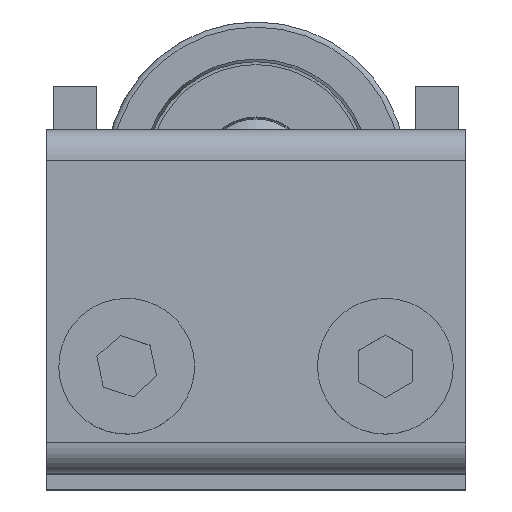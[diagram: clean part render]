
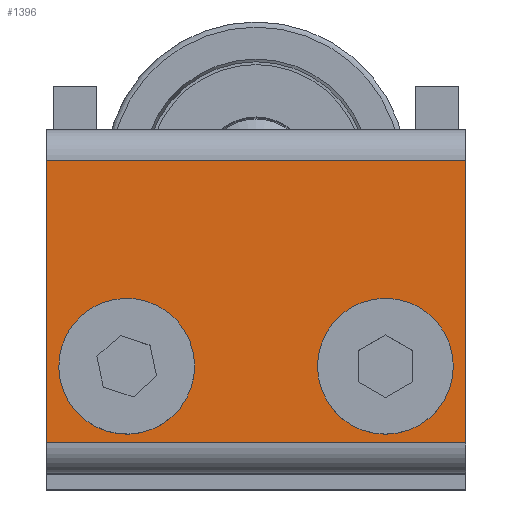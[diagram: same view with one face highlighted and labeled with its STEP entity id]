
A CAD part, top view. The second image highlights one B-rep face of the part: STEP entity #1396.
In plain terms, the highlighted planar face has unit normal (0, 0, 1) as drawn and (0, 0, -1) by its records, which use the part's own axes.
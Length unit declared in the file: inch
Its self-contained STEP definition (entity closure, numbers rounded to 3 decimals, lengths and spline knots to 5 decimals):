
#1095=DIRECTION('',(0.,-1.,0.));
#1096=VECTOR('',#1095,0.82);
#1097=CARTESIAN_POINT('',(-0.6075,0.41,-0.18));
#1098=LINE('',#1097,#1096);
#1121=DIRECTION('',(0.,-1.,0.));
#1122=VECTOR('',#1121,0.82);
#1123=CARTESIAN_POINT('',(0.6075,0.41,-0.18));
#1124=LINE('',#1123,#1122);
#1125=CARTESIAN_POINT('',(0.375,-0.188,-0.18));
#1126=DIRECTION('',(0.,0.,1.));
#1127=DIRECTION('',(1.,0.,0.));
#1128=AXIS2_PLACEMENT_3D('',#1125,#1126,#1127);
#1130=CARTESIAN_POINT('',(0.375,-0.188,-0.18));
#1131=DIRECTION('',(0.,0.,1.));
#1132=DIRECTION('',(-1.,0.,0.));
#1133=AXIS2_PLACEMENT_3D('',#1130,#1131,#1132);
#1135=CARTESIAN_POINT('',(-0.375,-0.188,-0.18));
#1136=DIRECTION('',(0.,0.,1.));
#1137=DIRECTION('',(1.,0.,0.));
#1138=AXIS2_PLACEMENT_3D('',#1135,#1136,#1137);
#1140=CARTESIAN_POINT('',(-0.375,-0.188,-0.18));
#1141=DIRECTION('',(0.,0.,1.));
#1142=DIRECTION('',(-1.,0.,0.));
#1143=AXIS2_PLACEMENT_3D('',#1140,#1141,#1142);
#1149=DIRECTION('',(-1.,0.,0.));
#1150=VECTOR('',#1149,1.215);
#1151=CARTESIAN_POINT('',(0.6075,0.41,-0.18));
#1152=LINE('',#1151,#1150);
#1237=DIRECTION('',(1.,0.,0.));
#1238=VECTOR('',#1237,1.215);
#1239=CARTESIAN_POINT('',(-0.6075,-0.41,-0.18));
#1240=LINE('',#1239,#1238);
#1245=CARTESIAN_POINT('',(0.5,-0.188,-0.18));
#1246=CARTESIAN_POINT('',(0.25,-0.188,-0.18));
#1247=VERTEX_POINT('',#1245);
#1248=VERTEX_POINT('',#1246);
#1264=CARTESIAN_POINT('',(-0.6075,0.41,-0.18));
#1266=VERTEX_POINT('',#1264);
#1267=CARTESIAN_POINT('',(0.6075,0.41,-0.18));
#1268=CARTESIAN_POINT('',(0.6075,-0.41,-0.18));
#1269=VERTEX_POINT('',#1267);
#1270=VERTEX_POINT('',#1268);
#1276=CARTESIAN_POINT('',(-0.5,-0.188,-0.18));
#1278=VERTEX_POINT('',#1276);
#1291=CARTESIAN_POINT('',(-0.6075,-0.41,-0.18));
#1292=VERTEX_POINT('',#1291);
#1297=CARTESIAN_POINT('',(-0.25,-0.188,-0.18));
#1298=VERTEX_POINT('',#1297);
#1371=CARTESIAN_POINT('',(0.6075,0.5,-0.18));
#1372=DIRECTION('',(0.,0.,1.));
#1373=DIRECTION('',(0.,-1.,0.));
#1374=AXIS2_PLACEMENT_3D('',#1371,#1372,#1373);
#1375=PLANE('',#1374);
#1376=ORIENTED_EDGE('',*,*,#1322,.F.);
#1378=ORIENTED_EDGE('',*,*,#1377,.T.);
#1379=ORIENTED_EDGE('',*,*,#1349,.T.);
#1381=ORIENTED_EDGE('',*,*,#1380,.T.);
#1382=EDGE_LOOP('',(#1376,#1378,#1379,#1381));
#1383=FACE_OUTER_BOUND('',#1382,.F.);
#1385=ORIENTED_EDGE('',*,*,#1384,.F.);
#1387=ORIENTED_EDGE('',*,*,#1386,.F.);
#1388=EDGE_LOOP('',(#1385,#1387));
#1389=FACE_BOUND('',#1388,.F.);
#1391=ORIENTED_EDGE('',*,*,#1390,.F.);
#1393=ORIENTED_EDGE('',*,*,#1392,.F.);
#1394=EDGE_LOOP('',(#1391,#1393));
#1395=FACE_BOUND('',#1394,.F.);
#1129=CIRCLE('',#1128,0.125);
#1134=CIRCLE('',#1133,0.125);
#1139=CIRCLE('',#1138,0.125);
#1144=CIRCLE('',#1143,0.125);
#1322=EDGE_CURVE('',#1269,#1270,#1124,.T.);
#1349=EDGE_CURVE('',#1266,#1292,#1098,.T.);
#1377=EDGE_CURVE('',#1269,#1266,#1152,.T.);
#1380=EDGE_CURVE('',#1292,#1270,#1240,.T.);
#1384=EDGE_CURVE('',#1247,#1248,#1129,.T.);
#1386=EDGE_CURVE('',#1248,#1247,#1134,.T.);
#1390=EDGE_CURVE('',#1298,#1278,#1139,.T.);
#1392=EDGE_CURVE('',#1278,#1298,#1144,.T.);
#1396=ADVANCED_FACE('',(#1383,#1389,#1395),#1375,.F.);
